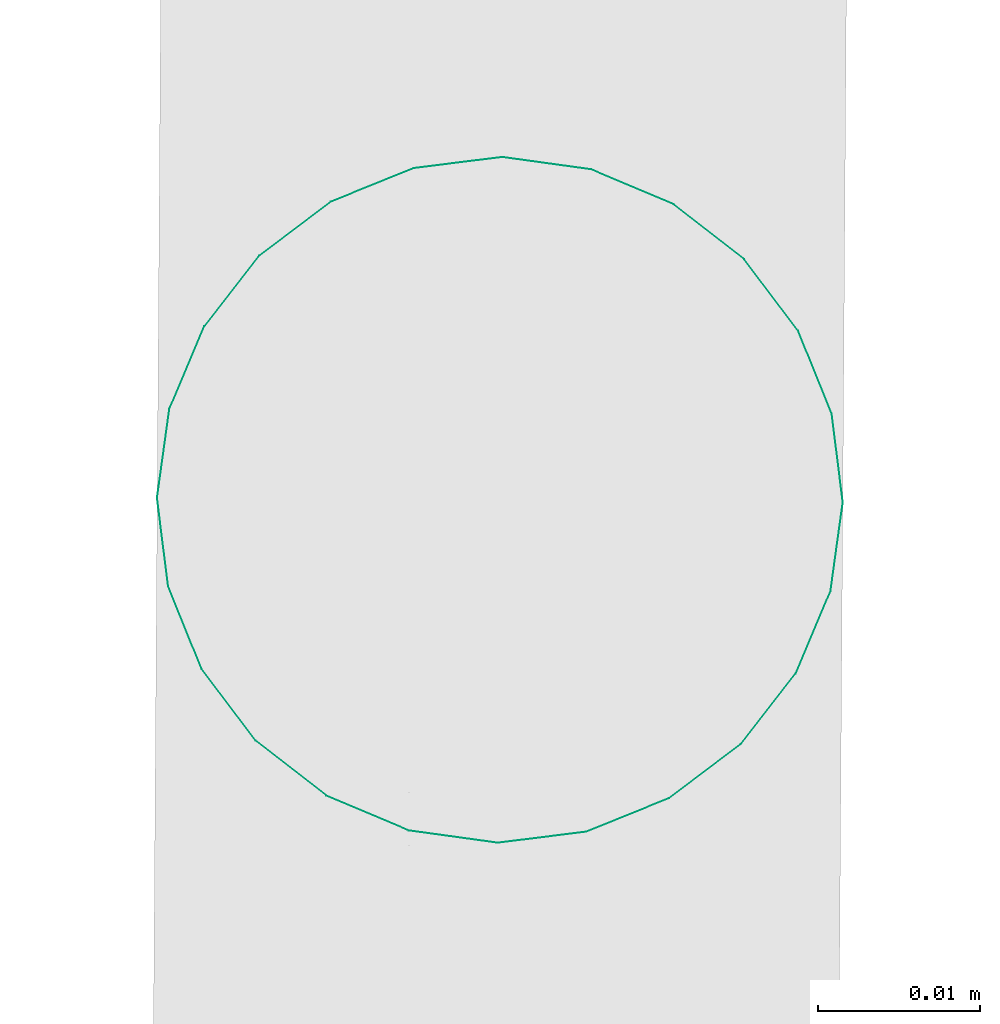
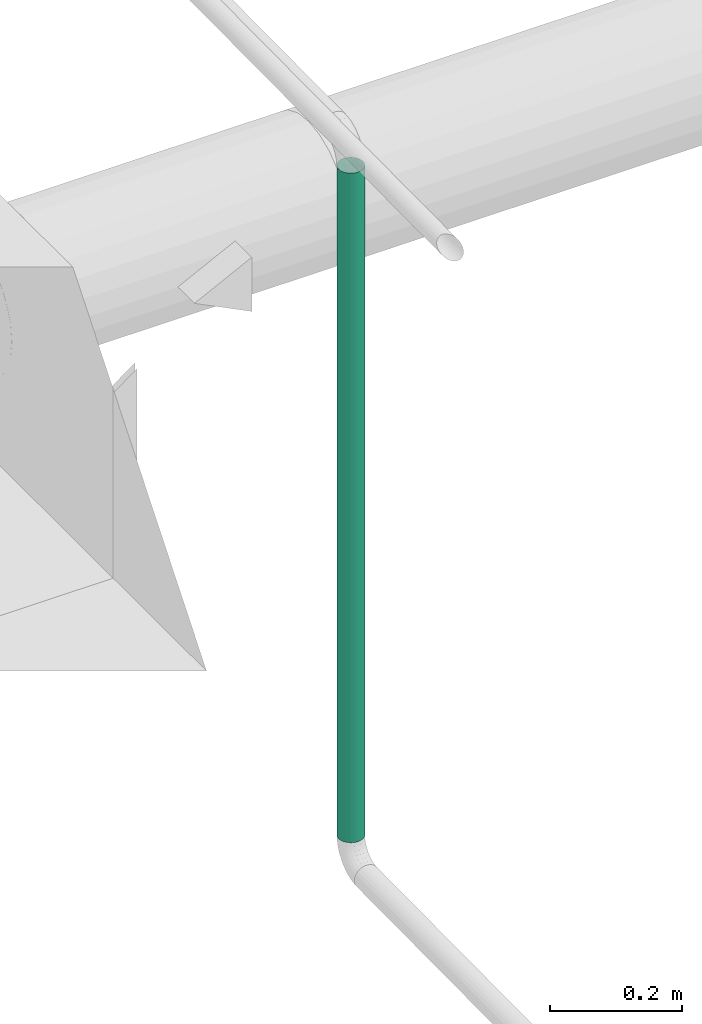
# One storey, part 224 of 374: 1 flow segment.
"""IFC2X3 building model written with IfcOpenShell, lengths in metres."""

from ifc_helpers import new_model, si_unit, direction, origin, place, context, subcontext, project, spatial, open_shell, surface_model, source, transform, mapped, element, save


model = new_model("IFC2X3")

# Units and contexts
model_context = context("Model", 3, precision=1e-05, world=origin(), true_north=direction((-0.4480736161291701, 0.8939966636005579)))
body_context = subcontext(model_context, "Body", "Model", "MODEL_VIEW")
ifc_project = project(units=[si_unit("LENGTHUNIT", "METRE"), si_unit("AREAUNIT", "SQUARE_METRE"), si_unit("VOLUMEUNIT", "CUBIC_METRE"), si_unit("PLANEANGLEUNIT", "RADIAN"), si_unit("THERMODYNAMICTEMPERATUREUNIT", "KELVIN"), si_unit("MASSUNIT", "GRAM", prefix="KILO"), si_unit("TIMEUNIT", "SECOND")], contexts=[model_context])

# Site, building, storey
site_placement = place(None, origin())
site = spatial("IfcSite", under=ifc_project, at=site_placement, Name="Site 1", CompositionType="ELEMENT")
building_placement = place(site_placement, origin())
building = spatial("IfcBuilding", under=site, at=building_placement, Name="Undefined", CompositionType="ELEMENT")
storey_placement = place(building_placement, origin())
storey = spatial("IfcBuildingStorey", under=building, at=storey_placement, Name="Rez de chauss\x8ee", CompositionType="ELEMENT", Elevation=0.0)

# Flow segment
shared_shape = source(origin(), body_context, "Body", "SurfaceModel", [
    surface_model("IfcFaceBasedSurfaceModel", [(0.0, 0.005534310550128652, 0.0), (0.0, 0.0, 0.0), (1.2356125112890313, 0.0, 0.0), (1.2356125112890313, 0.005534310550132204, 0.0), (0.0, -0.00534573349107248, -0.0014323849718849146), (1.2356125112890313, -0.00534573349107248, -0.0014323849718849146), (0.0, -0.010138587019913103, -0.004199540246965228), (1.2356125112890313, -0.010138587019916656, -0.004199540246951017), (0.0, -0.01405193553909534, -0.008112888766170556), (1.2356125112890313, -0.014051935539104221, -0.008112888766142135), (0.0, -0.016819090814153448, -0.012905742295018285), (1.2356125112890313, -0.016819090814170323, -0.012905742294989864), (0.0, -0.018251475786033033, -0.018251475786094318), (1.2356125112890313, -0.01825147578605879, -0.01825147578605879), (0.0, -0.0182514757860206, -0.02378578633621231), (1.2356125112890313, -0.01825147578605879, -0.0237857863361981), (0.0, -0.01681909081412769, -0.029131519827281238), (1.2356125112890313, -0.016819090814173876, -0.029131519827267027), (0.0, -0.014051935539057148, -0.03392437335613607), (1.2356125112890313, -0.014051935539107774, -0.03392437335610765), (0.0, -0.010138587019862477, -0.037837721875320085), (1.2356125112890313, -0.010138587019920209, -0.037837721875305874), (0.0, -0.005345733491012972, -0.040604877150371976), (1.2356125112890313, -0.00534573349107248, -0.04060487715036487), (0.0, 6.4837024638e-14, -0.042037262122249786), (1.2356125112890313, 0.0, -0.04203726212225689), (0.0, 0.005534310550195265, -0.04203726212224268), (1.2356125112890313, 0.005534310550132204, -0.042037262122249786), (0.0, 0.010880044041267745, -0.04060487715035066), (1.2356125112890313, 0.010880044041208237, -0.04060487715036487), (0.0, 0.01567289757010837, -0.03783772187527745), (1.2356125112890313, 0.01567289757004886, -0.03783772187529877), (0.0, 0.019586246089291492, -0.033924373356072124), (1.2356125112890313, 0.019586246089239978, -0.03392437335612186), (0.0, 0.0223534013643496, -0.029131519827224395), (1.2356125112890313, 0.02235340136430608, -0.029131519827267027), (0.0, 0.02378578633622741, -0.023785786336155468), (1.2356125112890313, 0.023785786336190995, -0.023785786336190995), (0.0, 0.023785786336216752, -0.01825147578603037), (1.2356125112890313, 0.023785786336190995, -0.018251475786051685), (0.0, 0.022353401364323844, -0.012905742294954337), (1.2356125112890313, 0.02235340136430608, -0.012905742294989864), (0.0, 0.019586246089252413, -0.008112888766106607), (1.2356125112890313, 0.019586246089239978, -0.008112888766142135), (0.0, 0.015672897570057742, -0.004199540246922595), (1.2356125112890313, 0.015672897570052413, -0.004199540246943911), (0.0, 0.010880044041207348, -0.0014323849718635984), (1.2356125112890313, 0.010880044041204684, -0.00143238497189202)], [open_shell([[[0, 1, 2, 3]], [[1, 4, 5, 2]], [[4, 6, 7, 5]], [[6, 8, 9, 7]], [[8, 10, 11, 9]], [[10, 12, 13, 11]], [[12, 14, 15, 13]], [[14, 16, 17, 15]], [[16, 18, 19, 17]], [[18, 20, 21, 19]], [[20, 22, 23, 21]], [[22, 24, 25, 23]], [[24, 26, 27, 25]], [[26, 28, 29, 27]], [[28, 30, 31, 29]], [[30, 32, 33, 31]], [[32, 34, 35, 33]], [[34, 36, 37, 35]], [[36, 38, 39, 37]], [[38, 40, 41, 39]], [[40, 42, 43, 41]], [[42, 44, 45, 43]], [[44, 46, 47, 45]], [[46, 0, 3, 47]]])]),
])
flow_segment_placement = place(storey_placement, origin())
element("IfcFlowSegment", 1, at=flow_segment_placement, inside=storey, Name="Tube acier d'après DIN 2448", ObjectType="Tube acier d'après DIN 2448", context=body_context, shape_type="MappedRepresentation", body=[
    mapped(shared_shape, transform((52.87905156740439, 14.14462990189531, 3.957140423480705), x_axis=(0.0, 0.0, -1.0), y_axis=(-0.13744454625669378, -0.9905094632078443, 0.0), z_axis=(-0.9905094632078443, 0.13744454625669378, 0.0))),
])

save(model, "model.ifc")
